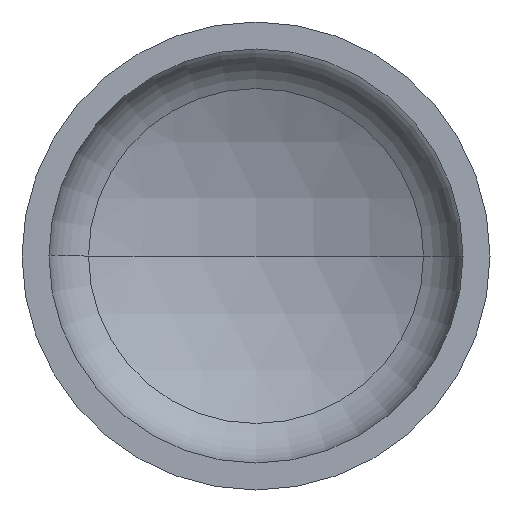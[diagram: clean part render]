
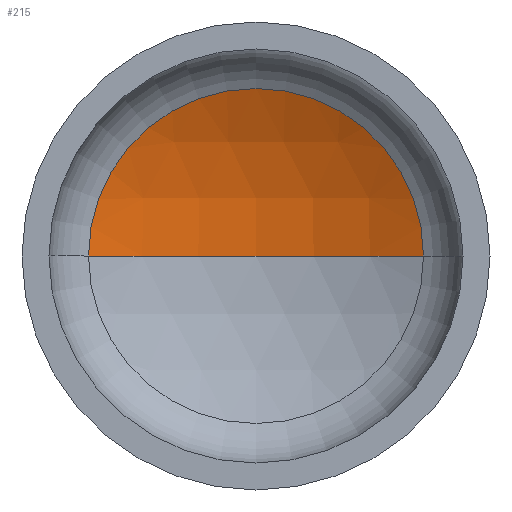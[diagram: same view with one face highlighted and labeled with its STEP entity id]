
A CAD part, front view. The second image highlights one B-rep face of the part: STEP entity #215.
In plain terms, the highlighted spherical face has radius 1360 mm.
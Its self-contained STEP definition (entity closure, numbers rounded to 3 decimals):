
#10 = FACE_OUTER_BOUND ( 'NONE', #22, .T. ) ;
#16 = CARTESIAN_POINT ( 'NONE',  ( 0., -883.837, 0. ) ) ;
#22 = EDGE_LOOP ( 'NONE', ( #135, #112, #45 ) ) ;
#23 = VERTEX_POINT ( 'NONE', #267 ) ;
#26 = AXIS2_PLACEMENT_3D ( 'NONE', #118, #78, #119 ) ;
#33 = VERTEX_POINT ( 'NONE', #245 ) ;
#36 = AXIS2_PLACEMENT_3D ( 'NONE', #345, #314, #150 ) ;
#45 = ORIENTED_EDGE ( 'NONE', *, *, #202, .T. ) ;
#78 = DIRECTION ( 'NONE',  ( 0., 0., 1. ) ) ;
#80 = CIRCLE ( 'NONE', #36, 1360. ) ;
#95 = VERTEX_POINT ( 'NONE', #232 ) ;
#102 = AXIS2_PLACEMENT_3D ( 'NONE', #16, #349, #200 ) ;
#112 = ORIENTED_EDGE ( 'NONE', *, *, #377, .T. ) ;
#116 = AXIS2_PLACEMENT_3D ( 'NONE', #269, #190, #198 ) ;
#118 = CARTESIAN_POINT ( 'NONE',  ( 0., -883.837, 0. ) ) ;
#119 = DIRECTION ( 'NONE',  ( 1., 0., 0. ) ) ;
#135 = ORIENTED_EDGE ( 'NONE', *, *, #379, .F. ) ;
#150 = DIRECTION ( 'NONE',  ( -1., 0., 0. ) ) ;
#190 = DIRECTION ( 'NONE',  ( 0., -1., 0. ) ) ;
#198 = DIRECTION ( 'NONE',  ( 1., 0., 0. ) ) ;
#200 = DIRECTION ( 'NONE',  ( -1., 0., 0. ) ) ;
#202 = EDGE_CURVE ( 'NONE', #33, #23, #368, .T. ) ;
#215 = ADVANCED_FACE ( 'NONE', ( #10 ), #242, .F. ) ;
#232 = CARTESIAN_POINT ( 'NONE',  ( 0., 476.163, 0. ) ) ;
#242 = SPHERICAL_SURFACE ( 'NONE', #102, 1360. ) ;
#245 = CARTESIAN_POINT ( 'NONE',  ( 608.291, 332.543, 0. ) ) ;
#267 = CARTESIAN_POINT ( 'NONE',  ( -608.291, 332.543, 0. ) ) ;
#269 = CARTESIAN_POINT ( 'NONE',  ( 0., 332.543, 0. ) ) ;
#314 = DIRECTION ( 'NONE',  ( 0., 0., -1. ) ) ;
#330 = CIRCLE ( 'NONE', #26, 1360. ) ;
#345 = CARTESIAN_POINT ( 'NONE',  ( 0., -883.837, 0. ) ) ;
#349 = DIRECTION ( 'NONE',  ( 0., 0., -1. ) ) ;
#368 = CIRCLE ( 'NONE', #116, 608.291 ) ;
#377 = EDGE_CURVE ( 'NONE', #95, #33, #80, .T. ) ;
#379 = EDGE_CURVE ( 'NONE', #95, #23, #330, .T. ) ;
